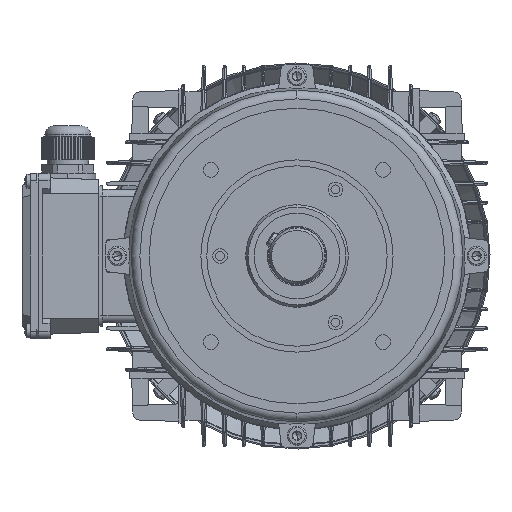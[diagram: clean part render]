
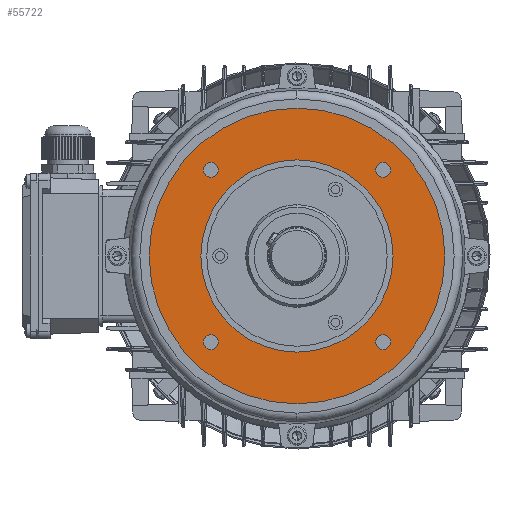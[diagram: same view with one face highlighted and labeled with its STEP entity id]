
A CAD part, left-side view. The second image highlights one B-rep face of the part: STEP entity #55722.
In plain terms, the highlighted planar face has unit normal (-1, 0, 0).
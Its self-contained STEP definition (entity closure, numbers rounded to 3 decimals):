
#59 = FACE_BOUND ( 'NONE', #114757, .T. ) ;
#413 = CIRCLE ( 'NONE', #71263, 100. ) ;
#1426 = CIRCLE ( 'NONE', #159545, 5. ) ;
#2111 = EDGE_CURVE ( 'NONE', #97237, #106618, #64988, .T. ) ;
#2987 = CARTESIAN_POINT ( 'NONE',  ( 3.5, 0., -65. ) ) ;
#4493 = CIRCLE ( 'NONE', #79287, 65. ) ;
#4635 = FACE_BOUND ( 'NONE', #163375, .T. ) ;
#6610 = EDGE_CURVE ( 'NONE', #37137, #90973, #413, .T. ) ;
#8240 = ORIENTED_EDGE ( 'NONE', *, *, #6610, .T. ) ;
#8345 = DIRECTION ( 'NONE',  ( 1., 0., 0. ) ) ;
#9167 = FACE_BOUND ( 'NONE', #28863, .T. ) ;
#10243 = AXIS2_PLACEMENT_3D ( 'NONE', #151127, #60794, #42722 ) ;
#10731 = DIRECTION ( 'NONE',  ( 1., 0., 0. ) ) ;
#11269 = VERTEX_POINT ( 'NONE', #109530 ) ;
#11785 = CARTESIAN_POINT ( 'NONE',  ( 3.5, 0., 0. ) ) ;
#11832 = CARTESIAN_POINT ( 'NONE',  ( 3.5, 65., 0. ) ) ;
#12008 = CIRCLE ( 'NONE', #12119, 5. ) ;
#12119 = AXIS2_PLACEMENT_3D ( 'NONE', #130650, #112573, #94490 ) ;
#17340 = ORIENTED_EDGE ( 'NONE', *, *, #156625, .T. ) ;
#18231 = FACE_OUTER_BOUND ( 'NONE', #149999, .T. ) ;
#19779 = EDGE_CURVE ( 'NONE', #106618, #97237, #12008, .T. ) ;
#25796 = DIRECTION ( 'NONE',  ( 0., 0., -1. ) ) ;
#26282 = CARTESIAN_POINT ( 'NONE',  ( 3.5, 58.336, 58.336 ) ) ;
#26296 = DIRECTION ( 'NONE',  ( 0., 0., 1. ) ) ;
#28686 = CARTESIAN_POINT ( 'NONE',  ( 3.5, -58.336, -58.336 ) ) ;
#28863 = EDGE_LOOP ( 'NONE', ( #129025, #50686 ) ) ;
#32379 = EDGE_CURVE ( 'NONE', #11269, #120733, #95542, .T. ) ;
#34014 = VERTEX_POINT ( 'NONE', #49974 ) ;
#34192 = AXIS2_PLACEMENT_3D ( 'NONE', #11785, #151998, #133941 ) ;
#35285 = CARTESIAN_POINT ( 'NONE',  ( 3.5, 58.336, 53.336 ) ) ;
#36295 = VERTEX_POINT ( 'NONE', #39985 ) ;
#36977 = EDGE_CURVE ( 'NONE', #120733, #11269, #58061, .T. ) ;
#37137 = VERTEX_POINT ( 'NONE', #132071 ) ;
#38928 = VERTEX_POINT ( 'NONE', #2987 ) ;
#39985 = CARTESIAN_POINT ( 'NONE',  ( 3.5, 58.336, -63.336 ) ) ;
#42722 = DIRECTION ( 'NONE',  ( 0., 0., -1. ) ) ;
#43869 = DIRECTION ( 'NONE',  ( 1., 0., 0. ) ) ;
#44048 = CIRCLE ( 'NONE', #130287, 65. ) ;
#44374 = DIRECTION ( 'NONE',  ( -1., 0., 0. ) ) ;
#49974 = CARTESIAN_POINT ( 'NONE',  ( 3.5, -58.336, 53.336 ) ) ;
#50686 = ORIENTED_EDGE ( 'NONE', *, *, #160741, .F. ) ;
#55722 = ADVANCED_FACE ( 'NONE', ( #144522, #167240, #59, #4635, #9167, #18231 ), #84061, .F. ) ;
#55908 = VERTEX_POINT ( 'NONE', #59498 ) ;
#58024 = ORIENTED_EDGE ( 'NONE', *, *, #174921, .T. ) ;
#58061 = CIRCLE ( 'NONE', #95870, 5. ) ;
#59498 = CARTESIAN_POINT ( 'NONE',  ( 3.5, 58.336, -53.336 ) ) ;
#60794 = DIRECTION ( 'NONE',  ( 1., 0., 0. ) ) ;
#61097 = ORIENTED_EDGE ( 'NONE', *, *, #2111, .T. ) ;
#62074 = DIRECTION ( 'NONE',  ( 0., 0., 1. ) ) ;
#62449 = CARTESIAN_POINT ( 'NONE',  ( 3.5, 0., 0. ) ) ;
#62621 = CARTESIAN_POINT ( 'NONE',  ( 3.5, 58.336, 63.336 ) ) ;
#64988 = CIRCLE ( 'NONE', #105606, 5. ) ;
#65501 = VERTEX_POINT ( 'NONE', #114485 ) ;
#71102 = EDGE_CURVE ( 'NONE', #36295, #55908, #127812, .T. ) ;
#71263 = AXIS2_PLACEMENT_3D ( 'NONE', #148721, #130688, #112610 ) ;
#71888 = ORIENTED_EDGE ( 'NONE', *, *, #96627, .T. ) ;
#75997 = VERTEX_POINT ( 'NONE', #107281 ) ;
#79287 = AXIS2_PLACEMENT_3D ( 'NONE', #98214, #80183, #62074 ) ;
#79556 = EDGE_LOOP ( 'NONE', ( #99789, #90640 ) ) ;
#80183 = DIRECTION ( 'NONE',  ( -1., 0., 0. ) ) ;
#80884 = ORIENTED_EDGE ( 'NONE', *, *, #19779, .T. ) ;
#81136 = DIRECTION ( 'NONE',  ( 0., 0., -1. ) ) ;
#84061 = PLANE ( 'NONE',  #171795 ) ;
#86915 = ORIENTED_EDGE ( 'NONE', *, *, #71102, .T. ) ;
#90640 = ORIENTED_EDGE ( 'NONE', *, *, #32379, .T. ) ;
#90973 = VERTEX_POINT ( 'NONE', #136641 ) ;
#93171 = CIRCLE ( 'NONE', #10243, 5. ) ;
#94490 = DIRECTION ( 'NONE',  ( 0., 0., -1. ) ) ;
#94747 = AXIS2_PLACEMENT_3D ( 'NONE', #28686, #10731, #168971 ) ;
#95542 = CIRCLE ( 'NONE', #94747, 5. ) ;
#95870 = AXIS2_PLACEMENT_3D ( 'NONE', #117249, #99174, #81136 ) ;
#96627 = EDGE_CURVE ( 'NONE', #55908, #36295, #93171, .T. ) ;
#97237 = VERTEX_POINT ( 'NONE', #35285 ) ;
#98214 = CARTESIAN_POINT ( 'NONE',  ( 3.5, 0., 0. ) ) ;
#99174 = DIRECTION ( 'NONE',  ( 1., 0., 0. ) ) ;
#99570 = DIRECTION ( 'NONE',  ( 0., 0., -1. ) ) ;
#99789 = ORIENTED_EDGE ( 'NONE', *, *, #36977, .T. ) ;
#105606 = AXIS2_PLACEMENT_3D ( 'NONE', #26282, #8345, #166544 ) ;
#106618 = VERTEX_POINT ( 'NONE', #62621 ) ;
#107281 = CARTESIAN_POINT ( 'NONE',  ( 3.5, -58.336, 63.336 ) ) ;
#109530 = CARTESIAN_POINT ( 'NONE',  ( 3.5, -58.336, -53.336 ) ) ;
#112321 = AXIS2_PLACEMENT_3D ( 'NONE', #169402, #151340, #133300 ) ;
#112573 = DIRECTION ( 'NONE',  ( 1., 0., 0. ) ) ;
#112610 = DIRECTION ( 'NONE',  ( 0., 0., 1. ) ) ;
#114485 = CARTESIAN_POINT ( 'NONE',  ( 3.5, 0., 65. ) ) ;
#114757 = EDGE_LOOP ( 'NONE', ( #86915, #71888 ) ) ;
#117249 = CARTESIAN_POINT ( 'NONE',  ( 3.5, -58.336, -58.336 ) ) ;
#117645 = DIRECTION ( 'NONE',  ( 1., 0., 0. ) ) ;
#120733 = VERTEX_POINT ( 'NONE', #168808 ) ;
#120931 = ORIENTED_EDGE ( 'NONE', *, *, #140718, .T. ) ;
#126255 = CIRCLE ( 'NONE', #112321, 5. ) ;
#127812 = CIRCLE ( 'NONE', #139828, 5. ) ;
#129025 = ORIENTED_EDGE ( 'NONE', *, *, #158897, .F. ) ;
#130287 = AXIS2_PLACEMENT_3D ( 'NONE', #62449, #44374, #26296 ) ;
#130650 = CARTESIAN_POINT ( 'NONE',  ( 3.5, 58.336, 58.336 ) ) ;
#130688 = DIRECTION ( 'NONE',  ( -1., 0., 0. ) ) ;
#132071 = CARTESIAN_POINT ( 'NONE',  ( 3.5, 0., -100. ) ) ;
#133300 = DIRECTION ( 'NONE',  ( 0., 0., -1. ) ) ;
#133941 = DIRECTION ( 'NONE',  ( 0., 0., 1. ) ) ;
#134226 = CARTESIAN_POINT ( 'NONE',  ( 3.5, 58.336, -58.336 ) ) ;
#135697 = CARTESIAN_POINT ( 'NONE',  ( 3.5, -58.336, 58.336 ) ) ;
#136641 = CARTESIAN_POINT ( 'NONE',  ( 3.5, 0., 100. ) ) ;
#139828 = AXIS2_PLACEMENT_3D ( 'NONE', #134226, #43869, #25796 ) ;
#140718 = EDGE_CURVE ( 'NONE', #90973, #37137, #148361, .T. ) ;
#144522 = FACE_BOUND ( 'NONE', #147065, .T. ) ;
#147065 = EDGE_LOOP ( 'NONE', ( #17340, #58024 ) ) ;
#148361 = CIRCLE ( 'NONE', #34192, 100. ) ;
#148721 = CARTESIAN_POINT ( 'NONE',  ( 3.5, 0., 0. ) ) ;
#149999 = EDGE_LOOP ( 'NONE', ( #120931, #8240 ) ) ;
#151127 = CARTESIAN_POINT ( 'NONE',  ( 3.5, 58.336, -58.336 ) ) ;
#151340 = DIRECTION ( 'NONE',  ( 1., 0., 0. ) ) ;
#151998 = DIRECTION ( 'NONE',  ( -1., 0., 0. ) ) ;
#152048 = DIRECTION ( 'NONE',  ( 0., 0., -1. ) ) ;
#156625 = EDGE_CURVE ( 'NONE', #34014, #75997, #1426, .T. ) ;
#158897 = EDGE_CURVE ( 'NONE', #65501, #38928, #44048, .T. ) ;
#159545 = AXIS2_PLACEMENT_3D ( 'NONE', #135697, #117645, #99570 ) ;
#160741 = EDGE_CURVE ( 'NONE', #38928, #65501, #4493, .T. ) ;
#163375 = EDGE_LOOP ( 'NONE', ( #61097, #80884 ) ) ;
#166544 = DIRECTION ( 'NONE',  ( 0., 0., -1. ) ) ;
#167240 = FACE_BOUND ( 'NONE', #79556, .T. ) ;
#168808 = CARTESIAN_POINT ( 'NONE',  ( 3.5, -58.336, -63.336 ) ) ;
#168971 = DIRECTION ( 'NONE',  ( 0., 0., -1. ) ) ;
#169402 = CARTESIAN_POINT ( 'NONE',  ( 3.5, -58.336, 58.336 ) ) ;
#170091 = DIRECTION ( 'NONE',  ( 1., 0., 0. ) ) ;
#171795 = AXIS2_PLACEMENT_3D ( 'NONE', #11832, #170091, #152048 ) ;
#174921 = EDGE_CURVE ( 'NONE', #75997, #34014, #126255, .T. ) ;
